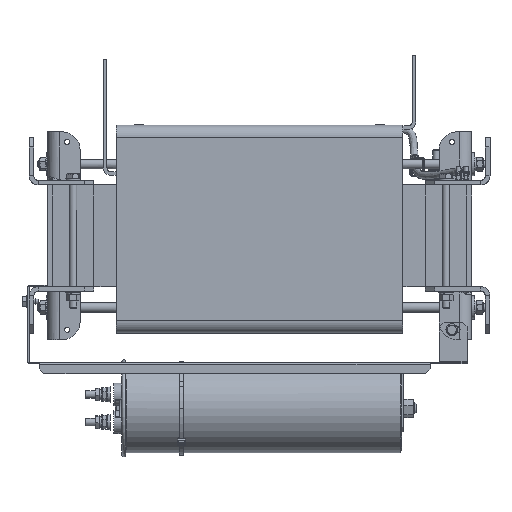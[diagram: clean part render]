
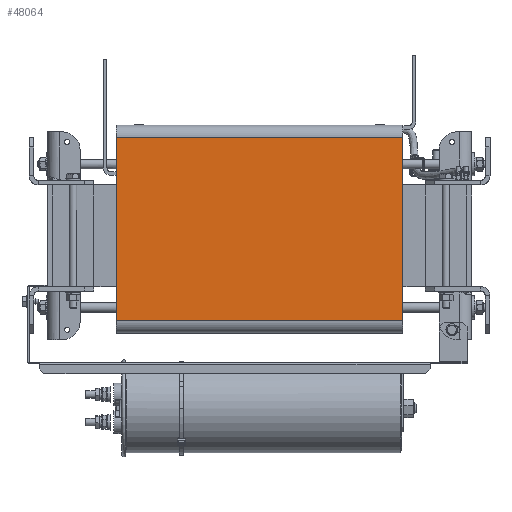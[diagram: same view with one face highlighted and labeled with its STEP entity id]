
A CAD part, left-side view. The second image highlights one B-rep face of the part: STEP entity #48064.
In plain terms, the highlighted planar face has unit normal (-1, 0, 0).
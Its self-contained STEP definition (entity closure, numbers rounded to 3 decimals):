
#2348=PLANE('',#51750);
#4516=FACE_OUTER_BOUND('',#7182,.T.);
#7182=EDGE_LOOP('',(#37551,#37552,#37553,#37554));
#11080=LINE('',#78603,#15249);
#11081=LINE('',#78609,#15250);
#11082=LINE('',#78610,#15251);
#11083=LINE('',#78611,#15252);
#15249=VECTOR('',#61157,10.);
#15250=VECTOR('',#61164,10.);
#15251=VECTOR('',#61165,10.);
#15252=VECTOR('',#61166,10.);
#21457=VERTEX_POINT('',#78601);
#21458=VERTEX_POINT('',#78602);
#21459=VERTEX_POINT('',#78607);
#21460=VERTEX_POINT('',#78608);
#27304=EDGE_CURVE('',#21457,#21458,#11080,.T.);
#27307=EDGE_CURVE('',#21459,#21460,#11081,.T.);
#27308=EDGE_CURVE('',#21457,#21459,#11082,.T.);
#27309=EDGE_CURVE('',#21460,#21458,#11083,.T.);
#37551=ORIENTED_EDGE('',*,*,#27307,.F.);
#37552=ORIENTED_EDGE('',*,*,#27308,.F.);
#37553=ORIENTED_EDGE('',*,*,#27304,.T.);
#37554=ORIENTED_EDGE('',*,*,#27309,.F.);
#48064=ADVANCED_FACE('',(#4516),#2348,.T.);
#51750=AXIS2_PLACEMENT_3D('',#78606,#61162,#61163);
#61157=DIRECTION('',(0.,-1.,0.));
#61162=DIRECTION('center_axis',(-1.,0.,0.));
#61163=DIRECTION('ref_axis',(0.,0.,1.));
#61164=DIRECTION('',(0.,-1.,0.));
#61165=DIRECTION('',(0.,0.,1.));
#61166=DIRECTION('',(0.,0.,-1.));
#78601=CARTESIAN_POINT('',(-207.716,155.,-91.673));
#78602=CARTESIAN_POINT('',(-207.716,-155.,-91.673));
#78603=CARTESIAN_POINT('',(-207.716,0.,-91.673));
#78606=CARTESIAN_POINT('Origin',(-207.716,0.,-91.673));
#78607=CARTESIAN_POINT('',(-207.716,155.,106.173));
#78608=CARTESIAN_POINT('',(-207.716,-155.,106.173));
#78609=CARTESIAN_POINT('',(-207.716,0.,106.173));
#78610=CARTESIAN_POINT('',(-207.716,155.,106.173));
#78611=CARTESIAN_POINT('',(-207.716,-155.,106.173));
